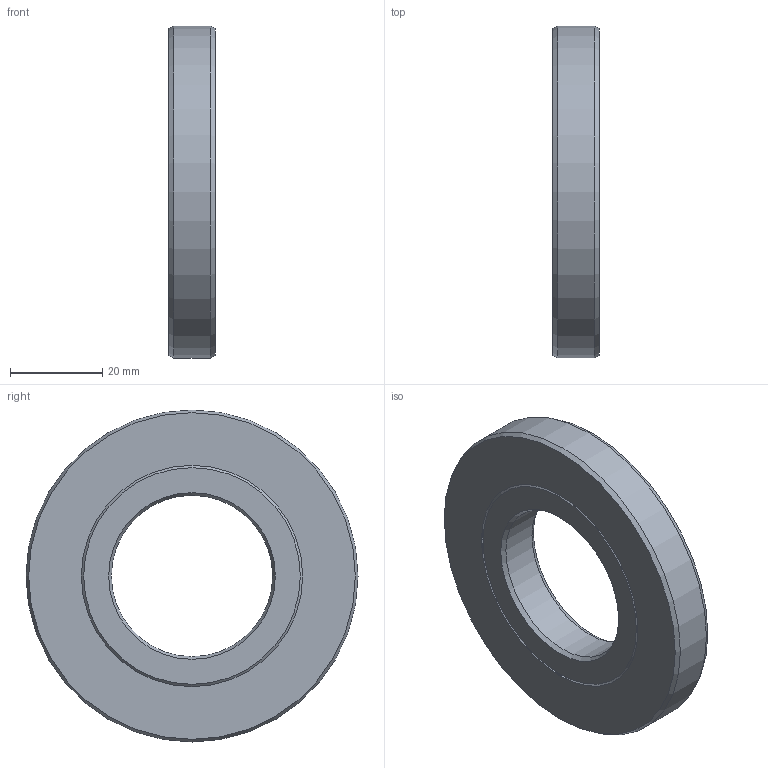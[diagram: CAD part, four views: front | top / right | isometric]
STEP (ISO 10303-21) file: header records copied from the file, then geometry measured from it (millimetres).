
FILE_DESCRIPTION(/* description */ (''),/* implementation_level */ '2;1');
FILE_NAME(/* name */ '301550 S35x72x10.stp',/* time_stamp */ '2016-12-16T13:37:52+01:00',/* author */ (''),/* organization */ (''),/* preprocessor_version */ 'ST-DEVELOPER v15',/* originating_system */ 'SIEMENS PLM Software NX 8.5',/* authorisation */ '');
FILE_SCHEMA (('CONFIG_CONTROL_DESIGN'));
Length unit declared in the file: millimetre
Products named in the file (1): ATE0000143_01
Bounding box: 10 x 72 x 72 mm (x, y, z)
Volume: 30051.6 mm3; surface area: 13551.4 mm2
Topology: 2 solids, 2 shells, 16 faces, 30 edges, 18 vertices
Faces by surface type: cone 10, plane 4, cylinder 2
Full cylindrical faces by diameter (mm): 35 x1, 72 x1
Entity records: 414 total; most frequent: DIRECTION 66, CARTESIAN_POINT 49, AXIS2_PLACEMENT_3D 33, FACE_BOUND 32, EDGE_LOOP 32, ORIENTED_EDGE 32, ADVANCED_FACE 16, VERTEX_POINT 16
